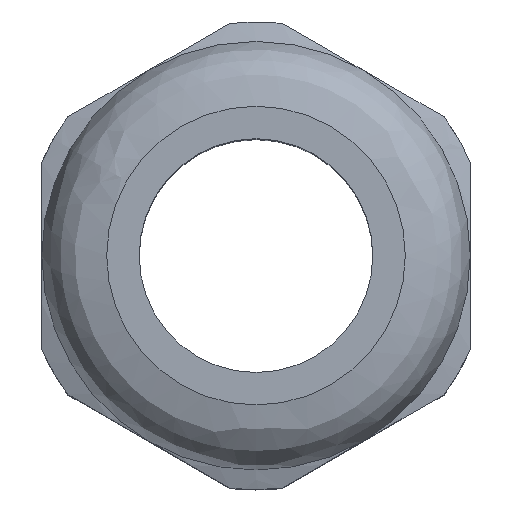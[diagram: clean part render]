
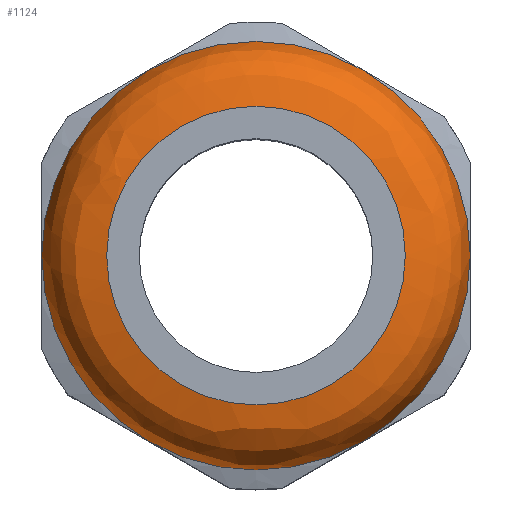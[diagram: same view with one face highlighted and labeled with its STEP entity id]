
A CAD part, top view. The second image highlights one B-rep face of the part: STEP entity #1124.
In plain terms, the highlighted free-form (B-spline) face has degree [2, 2] with [7, 3] control points.
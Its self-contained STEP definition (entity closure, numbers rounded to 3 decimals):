
#942=(
BOUNDED_SURFACE()
B_SPLINE_SURFACE(2,2,((#6008,#6009,#6010),(#6011,#6012,#6013),(#6014,#6015,
#6016),(#6017,#6018,#6019),(#6020,#6021,#6022),(#6023,#6024,#6025),(#6026,
#6027,#6028)),.UNSPECIFIED.,.T.,.F.,.F.)
B_SPLINE_SURFACE_WITH_KNOTS((1,2,2,2,2,1),(3,3),(-0.333,0.,
0.333,0.667,1.,1.333),(0.,1.),
 .UNSPECIFIED.)
GEOMETRIC_REPRESENTATION_ITEM()
RATIONAL_B_SPLINE_SURFACE(((1.,0.707,1.),(0.5,0.354,
0.5),(1.,0.707,1.),(0.5,0.354,0.5),(1.,0.707,
1.),(0.5,0.354,0.5),(1.,0.707,1.)))
REPRESENTATION_ITEM('')
SURFACE()
);
#1124=ADVANCED_FACE('',(#1378,#1379),#942,.F.);
#1378=FACE_BOUND('',#1459,.T.);
#1379=FACE_BOUND('',#1460,.T.);
#1459=EDGE_LOOP('',(#1779));
#1460=EDGE_LOOP('',(#1780,#1781,#1782,#1783,#1784,#1785,#1786));
#1779=ORIENTED_EDGE('',*,*,#2704,.F.);
#1780=ORIENTED_EDGE('',*,*,#2702,.F.);
#1781=ORIENTED_EDGE('',*,*,#2671,.F.);
#1782=ORIENTED_EDGE('',*,*,#2677,.F.);
#1783=ORIENTED_EDGE('',*,*,#2683,.F.);
#1784=ORIENTED_EDGE('',*,*,#2689,.F.);
#1785=ORIENTED_EDGE('',*,*,#2695,.F.);
#1786=ORIENTED_EDGE('',*,*,#2703,.F.);
#2420=VERTEX_POINT('',#5695);
#2421=VERTEX_POINT('',#5720);
#2424=VERTEX_POINT('',#5776);
#2427=VERTEX_POINT('',#5829);
#2430=VERTEX_POINT('',#5885);
#2433=VERTEX_POINT('',#5938);
#2437=VERTEX_POINT('',#5989);
#2438=VERTEX_POINT('',#6007);
#2671=EDGE_CURVE('',#2421,#2420,#2996,.T.);
#2677=EDGE_CURVE('',#2424,#2421,#2997,.T.);
#2683=EDGE_CURVE('',#2427,#2424,#2998,.T.);
#2689=EDGE_CURVE('',#2430,#2427,#2999,.T.);
#2695=EDGE_CURVE('',#2433,#2430,#3000,.T.);
#2702=EDGE_CURVE('',#2420,#2437,#3002,.T.);
#2703=EDGE_CURVE('',#2437,#2433,#3003,.T.);
#2704=EDGE_CURVE('',#2438,#2438,#3004,.T.);
#2996=CIRCLE('',#4373,16.5);
#2997=CIRCLE('',#4376,16.5);
#2998=CIRCLE('',#4379,16.5);
#2999=CIRCLE('',#4382,16.5);
#3000=CIRCLE('',#4385,16.5);
#3002=CIRCLE('',#4390,16.5);
#3003=CIRCLE('',#4391,16.5);
#3004=CIRCLE('',#4392,11.5);
#4373=AXIS2_PLACEMENT_3D('',#5722,#4770,#4771);
#4376=AXIS2_PLACEMENT_3D('',#5778,#4778,#4779);
#4379=AXIS2_PLACEMENT_3D('',#5831,#4786,#4787);
#4382=AXIS2_PLACEMENT_3D('',#5887,#4794,#4795);
#4385=AXIS2_PLACEMENT_3D('',#5940,#4802,#4803);
#4390=AXIS2_PLACEMENT_3D('',#5988,#4814,#4815);
#4391=AXIS2_PLACEMENT_3D('',#5990,#4816,#4817);
#4392=AXIS2_PLACEMENT_3D('',#6006,#4818,#4819);
#4770=DIRECTION('',(0.,0.,-1.));
#4771=DIRECTION('',(-0.5,-0.866,0.));
#4778=DIRECTION('',(0.,0.,-1.));
#4779=DIRECTION('',(0.5,-0.866,0.));
#4786=DIRECTION('',(0.,0.,-1.));
#4787=DIRECTION('',(1.,0.,0.));
#4794=DIRECTION('',(0.,0.,-1.));
#4795=DIRECTION('',(0.5,0.866,0.));
#4802=DIRECTION('',(0.,0.,-1.));
#4803=DIRECTION('',(-0.5,0.866,0.));
#4814=DIRECTION('',(0.,0.,-1.));
#4815=DIRECTION('',(-1.,0.,0.));
#4816=DIRECTION('',(0.,0.,-1.));
#4817=DIRECTION('',(-0.866,0.5,0.));
#4818=DIRECTION('',(0.,0.,1.));
#4819=DIRECTION('',(-0.866,0.5,0.));
#5695=CARTESIAN_POINT('',(-16.5,0.,23.));
#5720=CARTESIAN_POINT('',(-8.25,-14.289,23.));
#5722=CARTESIAN_POINT('',(0.,0.,23.));
#5776=CARTESIAN_POINT('',(8.25,-14.289,23.));
#5778=CARTESIAN_POINT('',(0.,0.,23.));
#5829=CARTESIAN_POINT('',(16.5,0.,23.));
#5831=CARTESIAN_POINT('',(0.,0.,23.));
#5885=CARTESIAN_POINT('',(8.25,14.289,23.));
#5887=CARTESIAN_POINT('',(0.,0.,23.));
#5938=CARTESIAN_POINT('',(-8.25,14.289,23.));
#5940=CARTESIAN_POINT('',(0.,0.,23.));
#5988=CARTESIAN_POINT('',(0.,0.,23.));
#5989=CARTESIAN_POINT('',(-14.289,8.25,23.));
#5990=CARTESIAN_POINT('',(0.,0.,23.));
#6006=CARTESIAN_POINT('',(0.,0.,28.));
#6007=CARTESIAN_POINT('',(-9.959,5.75,28.));
#6008=CARTESIAN_POINT('',(-14.289,8.25,23.));
#6009=CARTESIAN_POINT('',(-14.289,8.25,28.));
#6010=CARTESIAN_POINT('',(-9.959,5.75,28.));
#6011=CARTESIAN_POINT('',(0.,33.,23.));
#6012=CARTESIAN_POINT('',(0.,33.,28.));
#6013=CARTESIAN_POINT('',(0.,23.,28.));
#6014=CARTESIAN_POINT('',(14.289,8.25,23.));
#6015=CARTESIAN_POINT('',(14.289,8.25,28.));
#6016=CARTESIAN_POINT('',(9.959,5.75,28.));
#6017=CARTESIAN_POINT('',(28.579,-16.5,23.));
#6018=CARTESIAN_POINT('',(28.579,-16.5,28.));
#6019=CARTESIAN_POINT('',(19.919,-11.5,28.));
#6020=CARTESIAN_POINT('',(0.,-16.5,23.));
#6021=CARTESIAN_POINT('',(0.,-16.5,28.));
#6022=CARTESIAN_POINT('',(0.,-11.5,28.));
#6023=CARTESIAN_POINT('',(-28.579,-16.5,23.));
#6024=CARTESIAN_POINT('',(-28.579,-16.5,28.));
#6025=CARTESIAN_POINT('',(-19.919,-11.5,28.));
#6026=CARTESIAN_POINT('',(-14.289,8.25,23.));
#6027=CARTESIAN_POINT('',(-14.289,8.25,28.));
#6028=CARTESIAN_POINT('',(-9.959,5.75,28.));
